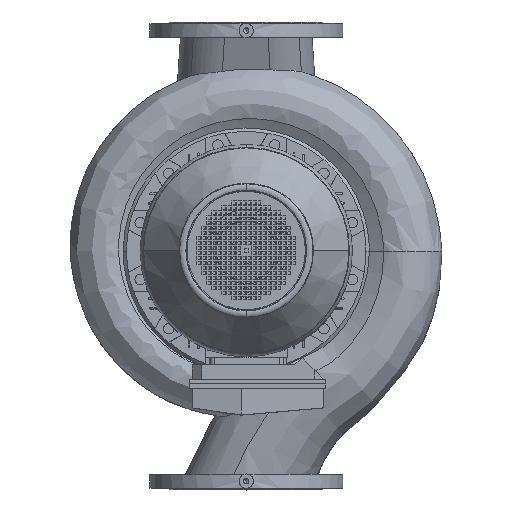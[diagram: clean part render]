
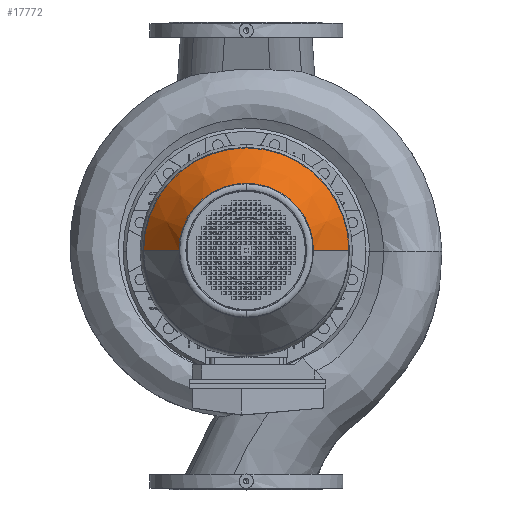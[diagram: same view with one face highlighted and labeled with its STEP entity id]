
A CAD part, top view. The second image highlights one B-rep face of the part: STEP entity #17772.
In plain terms, the highlighted conical face has half-angle 34.804 degrees and reference radius 178.671 mm.
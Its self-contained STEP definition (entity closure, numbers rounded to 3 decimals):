
#17772=ADVANCED_FACE('',(#40314),#40315,.T.);
#20388=EDGE_CURVE('',#44880,#44883,#44884,.T.);
#20390=EDGE_CURVE('',#44886,#44887,#44888,.T.);
#20392=EDGE_CURVE('',#44887,#44890,#44891,.T.);
#20394=EDGE_CURVE('',#44883,#44893,#44894,.T.);
#40314=FACE_OUTER_BOUND('',#86235,.T.);
#40315=CONICAL_SURFACE('',#86236,178.671,0.607);
#44880=VERTEX_POINT('',#90818);
#44883=VERTEX_POINT('',#90822);
#44884=CIRCLE('',#90823,141.0);
#44886=VERTEX_POINT('',#90826);
#44887=VERTEX_POINT('',#90827);
#44888=CIRCLE('',#90828,216.342);
#44890=VERTEX_POINT('',#90831);
#44891=CIRCLE('',#90832,216.342);
#44893=VERTEX_POINT('',#90835);
#44894=CIRCLE('',#90836,141.0);
#86235=EDGE_LOOP('',(#126768,#126769,#126770,#126771,#126772,#126773));
#86236=AXIS2_PLACEMENT_3D('',#126774,#126775,#126776);
#90818=CARTESIAN_POINT('',(228.035,141.0,0.0));
#90822=CARTESIAN_POINT('',(228.035,0.,141.0));
#90823=AXIS2_PLACEMENT_3D('',#139714,#139715,#139716);
#90826=CARTESIAN_POINT('',(119.648,216.342,0.0));
#90827=CARTESIAN_POINT('',(119.648,0.,216.342));
#90828=AXIS2_PLACEMENT_3D('',#139717,#139718,#139719);
#90831=CARTESIAN_POINT('',(119.648,-216.342,0.));
#90832=AXIS2_PLACEMENT_3D('',#139720,#139721,#139722);
#90835=CARTESIAN_POINT('',(228.035,-141.0,0.));
#90836=AXIS2_PLACEMENT_3D('',#139723,#139724,#139725);
#126768=ORIENTED_EDGE('',*,*,#147238,.F.);
#126769=ORIENTED_EDGE('',*,*,#20390,.T.);
#126770=ORIENTED_EDGE('',*,*,#20392,.T.);
#126771=ORIENTED_EDGE('',*,*,#147239,.F.);
#126772=ORIENTED_EDGE('',*,*,#20394,.F.);
#126773=ORIENTED_EDGE('',*,*,#20388,.F.);
#126774=CARTESIAN_POINT('',(173.842,0.0,0.0));
#126775=DIRECTION('',(-1.0,-0.0,-0.0));
#126776=DIRECTION('',(0.0,1.0,0.0));
#139714=CARTESIAN_POINT('',(228.035,0.0,0.0));
#139715=DIRECTION('',(1.0,0.0,0.0));
#139716=DIRECTION('',(0.0,1.0,0.0));
#139717=CARTESIAN_POINT('',(119.648,0.0,0.0));
#139718=DIRECTION('',(1.0,0.0,0.0));
#139719=DIRECTION('',(0.0,1.0,0.0));
#139720=CARTESIAN_POINT('',(119.648,0.0,0.0));
#139721=DIRECTION('',(1.0,0.0,0.0));
#139722=DIRECTION('',(0.0,1.0,0.0));
#139723=CARTESIAN_POINT('',(228.035,0.0,0.0));
#139724=DIRECTION('',(1.0,0.0,0.0));
#139725=DIRECTION('',(0.0,1.0,0.0));
#147238=EDGE_CURVE('',#44886,#44880,#152203,.T.);
#147239=EDGE_CURVE('',#44893,#44890,#152204,.T.);
#152203=LINE('',#159613,#159614);
#152204=LINE('',#159615,#159616);
#159613=CARTESIAN_POINT('',(173.842,178.671,0.));
#159614=VECTOR('',#163365,1.0);
#159615=CARTESIAN_POINT('',(173.842,-178.671,0.));
#159616=VECTOR('',#163366,1.0);
#163365=DIRECTION('',(0.821,-0.571,0.));
#163366=DIRECTION('',(-0.821,-0.571,0.));
